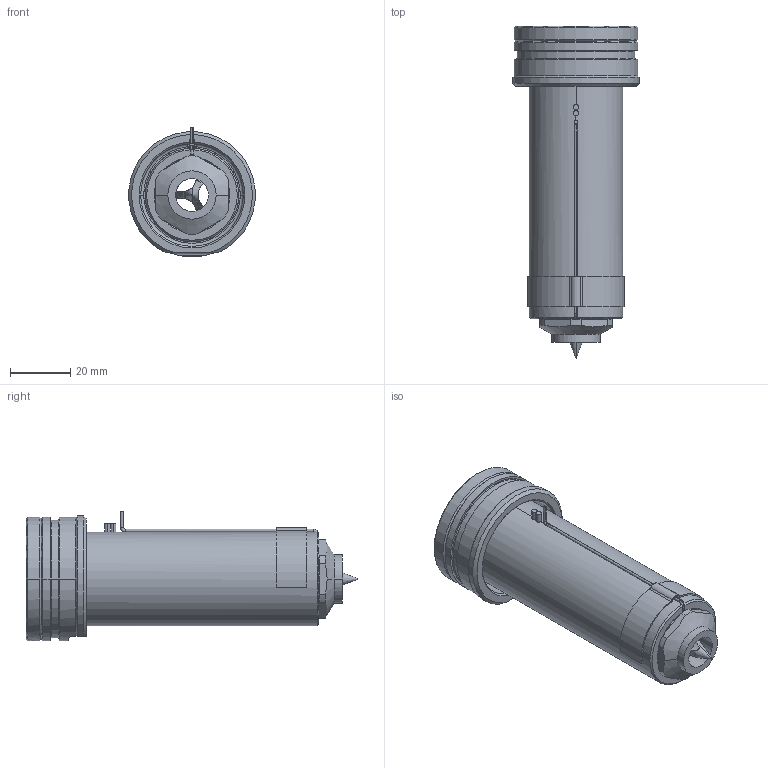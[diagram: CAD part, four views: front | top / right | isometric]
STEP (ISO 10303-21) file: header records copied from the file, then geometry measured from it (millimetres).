
FILE_DESCRIPTION((''),'2;1');
FILE_NAME('EO12_PG-BL_WR_090_SW','2024-02-19T11:14:22',('sundharh'),(''),'CREO PARAMETRIC BY PTC INC, 2023154','CREO PARAMETRIC BY PTC INC, 2023154','');
FILE_SCHEMA(('CONFIG_CONTROL_DESIGN'));
Length unit declared in the file: millimetre
Products named in the file (1): EO12_PG-BL_WR_090_SW
Bounding box: 41.85 x 110 x 43 mm (x, y, z)
Volume: 74220 mm3; surface area: 22517.7 mm2
Topology: 2 solids, 3 shells, 213 faces, 571 edges, 353 vertices
Faces by surface type: cylinder 80, plane 60, cone 41, torus 27, bspline 3, sphere 2
Entity records: 7745 total; most frequent: CARTESIAN_POINT 2283, DIRECTION 1201, ORIENTED_EDGE 1138, EDGE_CURVE 569, AXIS2_PLACEMENT_3D 505, VERTEX_POINT 353, CIRCLE 295, EDGE_LOOP 230
